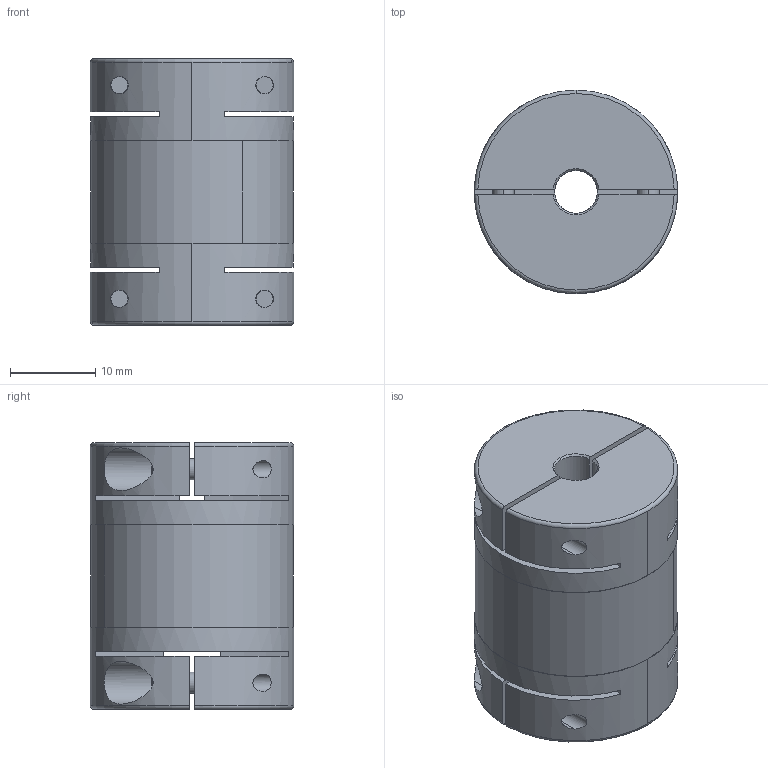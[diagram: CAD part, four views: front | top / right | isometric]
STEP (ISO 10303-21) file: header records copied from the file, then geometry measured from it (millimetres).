
FILE_DESCRIPTION (( 'STEP AP203' ), '1' );
FILE_NAME ('SHR-24C-5X8_203.STEP', '2013-05-19T01:04:27', ( 'Z77' ), ( '' ), 'SwSTEP 2.0', 'SolidWorks 2012', '' );
FILE_SCHEMA (( 'CONFIG_CONTROL_DESIGN' ));
Length unit declared in the file: millimetre
Products named in the file (1): SHR-24C-5X8_203
Bounding box: 23.8 x 23.8 x 31.2 mm (x, y, z)
Volume: 11521.9 mm3; surface area: 6160.7 mm2
Topology: 1 solids, 1 shells, 228 faces, 533 edges, 321 vertices
Faces by surface type: plane 92, cylinder 76, cone 30, torus 30
Entity records: 6961 total; most frequent: CARTESIAN_POINT 1555, DIRECTION 1206, ORIENTED_EDGE 1050, EDGE_CURVE 525, AXIS2_PLACEMENT_3D 484, VERTEX_POINT 321, EDGE_LOOP 260, CIRCLE 255
